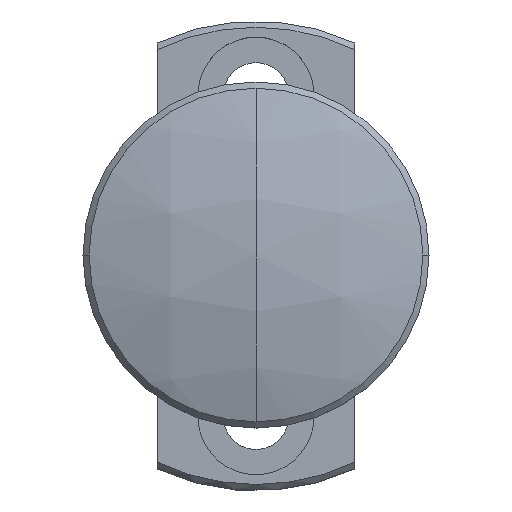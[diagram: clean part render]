
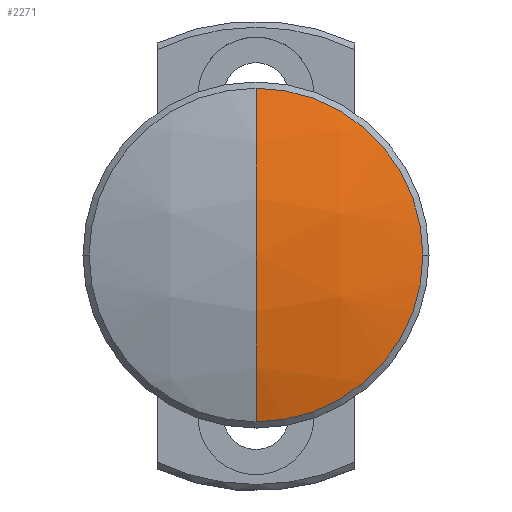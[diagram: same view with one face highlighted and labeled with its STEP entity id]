
A CAD part, top view. The second image highlights one B-rep face of the part: STEP entity #2271.
In plain terms, the highlighted spherical face has radius 42 mm.
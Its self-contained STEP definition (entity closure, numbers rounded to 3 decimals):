
#92 = CARTESIAN_POINT ( 'NONE',  ( 0., 24., 0. ) ) ;
#145 = CIRCLE ( 'NONE', #1835, 13.5 ) ;
#264 = CIRCLE ( 'NONE', #1651, 42. ) ;
#325 = CIRCLE ( 'NONE', #1704, 42. ) ;
#413 = EDGE_LOOP ( 'NONE', ( #1273, #1157, #1605, #2386 ) ) ;
#470 = VERTEX_POINT ( 'NONE', #1422 ) ;
#532 = DIRECTION ( 'NONE',  ( 0., 1., 0. ) ) ;
#707 = CARTESIAN_POINT ( 'NONE',  ( 0., 21.771, 0. ) ) ;
#905 = DIRECTION ( 'NONE',  ( 0., 1., 0. ) ) ;
#932 = EDGE_CURVE ( 'NONE', #470, #967, #2337, .T. ) ;
#964 = DIRECTION ( 'NONE',  ( 0., 0., -1. ) ) ;
#967 = VERTEX_POINT ( 'NONE', #2223 ) ;
#1033 = CARTESIAN_POINT ( 'NONE',  ( 13.5, 21.771, 0. ) ) ;
#1157 = ORIENTED_EDGE ( 'NONE', *, *, #2370, .T. ) ;
#1180 = AXIS2_PLACEMENT_3D ( 'NONE', #1669, #905, #1499 ) ;
#1200 = VERTEX_POINT ( 'NONE', #1033 ) ;
#1273 = ORIENTED_EDGE ( 'NONE', *, *, #932, .T. ) ;
#1368 = CARTESIAN_POINT ( 'NONE',  ( 0., -18., 0. ) ) ;
#1422 = CARTESIAN_POINT ( 'NONE',  ( 0., 21.771, -13.5 ) ) ;
#1499 = DIRECTION ( 'NONE',  ( 0., 0., 1. ) ) ;
#1510 = DIRECTION ( 'NONE',  ( 1., 0., 0. ) ) ;
#1512 = AXIS2_PLACEMENT_3D ( 'NONE', #1368, #964, #1510 ) ;
#1570 = DIRECTION ( 'NONE',  ( 0., 0., 1. ) ) ;
#1605 = ORIENTED_EDGE ( 'NONE', *, *, #1664, .F. ) ;
#1651 = AXIS2_PLACEMENT_3D ( 'NONE', #1907, #1570, #1717 ) ;
#1664 = EDGE_CURVE ( 'NONE', #1200, #2375, #264, .T. ) ;
#1669 = CARTESIAN_POINT ( 'NONE',  ( 0., 21.771, 0. ) ) ;
#1704 = AXIS2_PLACEMENT_3D ( 'NONE', #2169, #1781, #2129 ) ;
#1717 = DIRECTION ( 'NONE',  ( 1., 0., 0. ) ) ;
#1781 = DIRECTION ( 'NONE',  ( 0., 0., -1. ) ) ;
#1835 = AXIS2_PLACEMENT_3D ( 'NONE', #707, #532, #2023 ) ;
#1891 = FACE_OUTER_BOUND ( 'NONE', #413, .T. ) ;
#1907 = CARTESIAN_POINT ( 'NONE',  ( 0., -18., 0. ) ) ;
#2023 = DIRECTION ( 'NONE',  ( 0., 0., 1. ) ) ;
#2129 = DIRECTION ( 'NONE',  ( -1., 0., 0. ) ) ;
#2133 = EDGE_CURVE ( 'NONE', #1200, #470, #145, .T. ) ;
#2169 = CARTESIAN_POINT ( 'NONE',  ( 0., -18., 0. ) ) ;
#2223 = CARTESIAN_POINT ( 'NONE',  ( -13.5, 21.771, 0. ) ) ;
#2252 = SPHERICAL_SURFACE ( 'NONE', #1512, 42. ) ;
#2271 = ADVANCED_FACE ( 'NONE', ( #1891 ), #2252, .T. ) ;
#2337 = CIRCLE ( 'NONE', #1180, 13.5 ) ;
#2370 = EDGE_CURVE ( 'NONE', #967, #2375, #325, .T. ) ;
#2375 = VERTEX_POINT ( 'NONE', #92 ) ;
#2386 = ORIENTED_EDGE ( 'NONE', *, *, #2133, .T. ) ;
